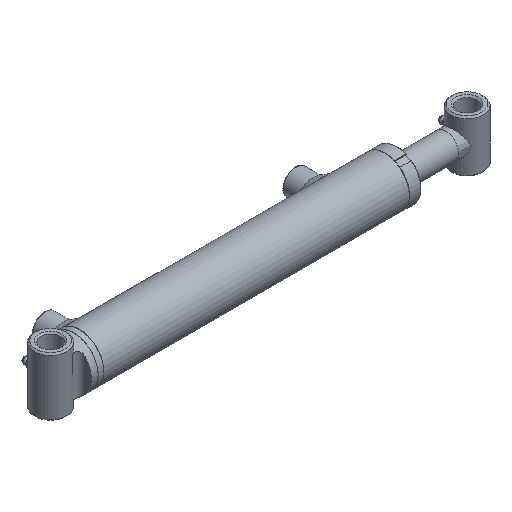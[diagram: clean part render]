
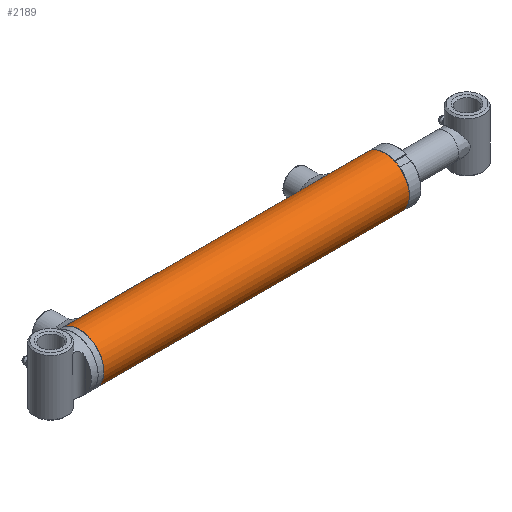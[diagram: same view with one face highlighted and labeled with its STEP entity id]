
A CAD part, isometric view. The second image highlights one B-rep face of the part: STEP entity #2189.
In plain terms, the highlighted cylindrical face has radius 23.812 mm (diameter 47.625 mm), a full revolution.
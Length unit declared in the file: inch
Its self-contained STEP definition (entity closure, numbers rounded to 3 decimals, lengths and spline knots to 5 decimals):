
#387=FACE_BOUND('',#697,.T.);
#388=FACE_BOUND('',#698,.T.);
#389=FACE_BOUND('',#699,.T.);
#509=FACE_OUTER_BOUND('',#696,.T.);
#696=EDGE_LOOP('',(#1677));
#697=EDGE_LOOP('',(#1678));
#698=EDGE_LOOP('',(#1679));
#699=EDGE_LOOP('',(#1680));
#933=CIRCLE('',#2369,0.9375);
#937=CIRCLE('',#2377,0.9375);
#1070=B_SPLINE_CURVE_WITH_KNOTS('',3,(#4784,#4785,#4786,#4787,#4788,#4789,
#4790,#4791,#4792,#4793,#4794,#4795,#4796,#4797,#4798,#4799,#4800,#4801,
#4802,#4803,#4804,#4805,#4806,#4807,#4808,#4809,#4810,#4811,#4812,#4813,
#4814,#4815,#4816,#4817),.UNSPECIFIED.,.T.,.F.,(4,2,2,2,2,2,2,2,2,2,2,2,
2,2,2,2,4),(0.,0.18896,0.37791,0.56686,0.7558,
0.94474,1.13369,1.32264,1.5116,1.70055,
1.88951,2.07845,2.2674,2.45634,2.64528,
2.83424,3.0232),.UNSPECIFIED.);
#1072=B_SPLINE_CURVE_WITH_KNOTS('',3,(#4962,#4963,#4964,#4965,#4966,#4967,
#4968,#4969,#4970,#4971,#4972,#4973,#4974,#4975,#4976,#4977,#4978,#4979,
#4980,#4981,#4982,#4983,#4984,#4985,#4986,#4987,#4988,#4989,#4990,#4991,
#4992,#4993,#4994,#4995),.UNSPECIFIED.,.T.,.F.,(4,2,2,2,2,2,2,2,2,2,2,2,
2,2,2,2,4),(0.,0.18896,0.37791,0.56686,0.7558,
0.94474,1.13369,1.32264,1.5116,1.70055,
1.88951,2.07845,2.2674,2.45634,2.64528,
2.83424,3.0232),.UNSPECIFIED.);
#1126=VERTEX_POINT('',#4783);
#1128=VERTEX_POINT('',#4961);
#1132=VERTEX_POINT('',#5005);
#1136=VERTEX_POINT('',#5017);
#1345=EDGE_CURVE('',#1126,#1126,#1070,.T.);
#1348=EDGE_CURVE('',#1128,#1128,#1072,.T.);
#1352=EDGE_CURVE('',#1132,#1132,#933,.T.);
#1356=EDGE_CURVE('',#1136,#1136,#937,.T.);
#1677=ORIENTED_EDGE('',*,*,#1356,.T.);
#1678=ORIENTED_EDGE('',*,*,#1345,.T.);
#1679=ORIENTED_EDGE('',*,*,#1348,.T.);
#1680=ORIENTED_EDGE('',*,*,#1352,.F.);
#2120=CYLINDRICAL_SURFACE('',#2379,0.9375);
#2189=ADVANCED_FACE('',(#509,#387,#388,#389),#2120,.T.);
#2369=AXIS2_PLACEMENT_3D('',#5006,#2714,#2715);
#2377=AXIS2_PLACEMENT_3D('',#5018,#2730,#2731);
#2379=AXIS2_PLACEMENT_3D('',#5020,#2734,#2735);
#2714=DIRECTION('center_axis',(1.,0.,0.));
#2715=DIRECTION('ref_axis',(0.,-1.,0.));
#2730=DIRECTION('center_axis',(1.,0.,0.));
#2731=DIRECTION('ref_axis',(0.,-1.,0.));
#2734=DIRECTION('center_axis',(1.,0.,0.));
#2735=DIRECTION('ref_axis',(0.,-1.,0.));
#4783=CARTESIAN_POINT('',(4.22195,0.9166,-0.19685));
#4784=CARTESIAN_POINT('Ctrl Pts',(4.22195,0.9166,-0.19685));
#4785=CARTESIAN_POINT('Ctrl Pts',(4.24675,0.9166,-0.19685));
#4786=CARTESIAN_POINT('Ctrl Pts',(4.27314,0.91771,-0.19188));
#4787=CARTESIAN_POINT('Ctrl Pts',(4.32162,0.92169,-0.17177));
#4788=CARTESIAN_POINT('Ctrl Pts',(4.34371,0.92449,-0.15663));
#4789=CARTESIAN_POINT('Ctrl Pts',(4.37858,0.92973,-0.12176));
#4790=CARTESIAN_POINT('Ctrl Pts',(4.39372,0.9325,-0.09967));
#4791=CARTESIAN_POINT('Ctrl Pts',(4.41383,0.93642,-0.05119));
#4792=CARTESIAN_POINT('Ctrl Pts',(4.4188,0.9375,-0.0248));
#4793=CARTESIAN_POINT('Ctrl Pts',(4.4188,0.9375,0.0248));
#4794=CARTESIAN_POINT('Ctrl Pts',(4.41383,0.93642,0.05119));
#4795=CARTESIAN_POINT('Ctrl Pts',(4.39372,0.9325,0.09967));
#4796=CARTESIAN_POINT('Ctrl Pts',(4.37858,0.92973,0.12176));
#4797=CARTESIAN_POINT('Ctrl Pts',(4.34371,0.92449,0.15663));
#4798=CARTESIAN_POINT('Ctrl Pts',(4.32162,0.92169,0.17177));
#4799=CARTESIAN_POINT('Ctrl Pts',(4.27314,0.91771,0.19188));
#4800=CARTESIAN_POINT('Ctrl Pts',(4.24675,0.9166,0.19685));
#4801=CARTESIAN_POINT('Ctrl Pts',(4.19715,0.9166,0.19685));
#4802=CARTESIAN_POINT('Ctrl Pts',(4.17075,0.91771,0.19188));
#4803=CARTESIAN_POINT('Ctrl Pts',(4.12228,0.92169,0.17177));
#4804=CARTESIAN_POINT('Ctrl Pts',(4.10019,0.92449,0.15663));
#4805=CARTESIAN_POINT('Ctrl Pts',(4.06532,0.92973,0.12176));
#4806=CARTESIAN_POINT('Ctrl Pts',(4.05018,0.9325,0.09967));
#4807=CARTESIAN_POINT('Ctrl Pts',(4.03007,0.93642,0.05119));
#4808=CARTESIAN_POINT('Ctrl Pts',(4.0251,0.9375,0.0248));
#4809=CARTESIAN_POINT('Ctrl Pts',(4.0251,0.9375,-0.0248));
#4810=CARTESIAN_POINT('Ctrl Pts',(4.03007,0.93642,-0.05119));
#4811=CARTESIAN_POINT('Ctrl Pts',(4.05018,0.9325,-0.09967));
#4812=CARTESIAN_POINT('Ctrl Pts',(4.06532,0.92973,-0.12176));
#4813=CARTESIAN_POINT('Ctrl Pts',(4.10019,0.92449,-0.15663));
#4814=CARTESIAN_POINT('Ctrl Pts',(4.12228,0.92169,-0.17177));
#4815=CARTESIAN_POINT('Ctrl Pts',(4.17075,0.91771,-0.19188));
#4816=CARTESIAN_POINT('Ctrl Pts',(4.19715,0.9166,-0.19685));
#4817=CARTESIAN_POINT('Ctrl Pts',(4.22195,0.9166,-0.19685));
#4961=CARTESIAN_POINT('',(-5.40305,0.9166,-0.19685));
#4962=CARTESIAN_POINT('Ctrl Pts',(-5.40305,0.9166,-0.19685));
#4963=CARTESIAN_POINT('Ctrl Pts',(-5.37825,0.9166,-0.19685));
#4964=CARTESIAN_POINT('Ctrl Pts',(-5.35186,0.91771,-0.19188));
#4965=CARTESIAN_POINT('Ctrl Pts',(-5.30338,0.92169,-0.17177));
#4966=CARTESIAN_POINT('Ctrl Pts',(-5.28129,0.92449,-0.15663));
#4967=CARTESIAN_POINT('Ctrl Pts',(-5.24642,0.92973,-0.12176));
#4968=CARTESIAN_POINT('Ctrl Pts',(-5.23128,0.9325,-0.09967));
#4969=CARTESIAN_POINT('Ctrl Pts',(-5.21117,0.93642,-0.05119));
#4970=CARTESIAN_POINT('Ctrl Pts',(-5.2062,0.9375,-0.0248));
#4971=CARTESIAN_POINT('Ctrl Pts',(-5.2062,0.9375,0.0248));
#4972=CARTESIAN_POINT('Ctrl Pts',(-5.21117,0.93642,0.05119));
#4973=CARTESIAN_POINT('Ctrl Pts',(-5.23128,0.9325,0.09967));
#4974=CARTESIAN_POINT('Ctrl Pts',(-5.24642,0.92973,0.12176));
#4975=CARTESIAN_POINT('Ctrl Pts',(-5.28129,0.92449,0.15663));
#4976=CARTESIAN_POINT('Ctrl Pts',(-5.30338,0.92169,0.17177));
#4977=CARTESIAN_POINT('Ctrl Pts',(-5.35186,0.91771,0.19188));
#4978=CARTESIAN_POINT('Ctrl Pts',(-5.37825,0.9166,0.19685));
#4979=CARTESIAN_POINT('Ctrl Pts',(-5.42785,0.9166,0.19685));
#4980=CARTESIAN_POINT('Ctrl Pts',(-5.45425,0.91771,0.19188));
#4981=CARTESIAN_POINT('Ctrl Pts',(-5.50272,0.92169,0.17177));
#4982=CARTESIAN_POINT('Ctrl Pts',(-5.52481,0.92449,0.15663));
#4983=CARTESIAN_POINT('Ctrl Pts',(-5.55968,0.92973,0.12176));
#4984=CARTESIAN_POINT('Ctrl Pts',(-5.57482,0.9325,0.09967));
#4985=CARTESIAN_POINT('Ctrl Pts',(-5.59493,0.93642,0.05119));
#4986=CARTESIAN_POINT('Ctrl Pts',(-5.5999,0.9375,0.0248));
#4987=CARTESIAN_POINT('Ctrl Pts',(-5.5999,0.9375,-0.0248));
#4988=CARTESIAN_POINT('Ctrl Pts',(-5.59493,0.93642,-0.05119));
#4989=CARTESIAN_POINT('Ctrl Pts',(-5.57482,0.9325,-0.09967));
#4990=CARTESIAN_POINT('Ctrl Pts',(-5.55968,0.92973,-0.12176));
#4991=CARTESIAN_POINT('Ctrl Pts',(-5.52481,0.92449,-0.15663));
#4992=CARTESIAN_POINT('Ctrl Pts',(-5.50272,0.92169,-0.17177));
#4993=CARTESIAN_POINT('Ctrl Pts',(-5.45425,0.91771,-0.19188));
#4994=CARTESIAN_POINT('Ctrl Pts',(-5.42785,0.9166,-0.19685));
#4995=CARTESIAN_POINT('Ctrl Pts',(-5.40305,0.9166,-0.19685));
#5005=CARTESIAN_POINT('',(5.95423,0.9375,0.));
#5006=CARTESIAN_POINT('Origin',(5.95423,0.,0.));
#5017=CARTESIAN_POINT('',(-5.78445,0.9375,0.));
#5018=CARTESIAN_POINT('Origin',(-5.78445,0.,0.));
#5020=CARTESIAN_POINT('Origin',(0.,0.,0.));
